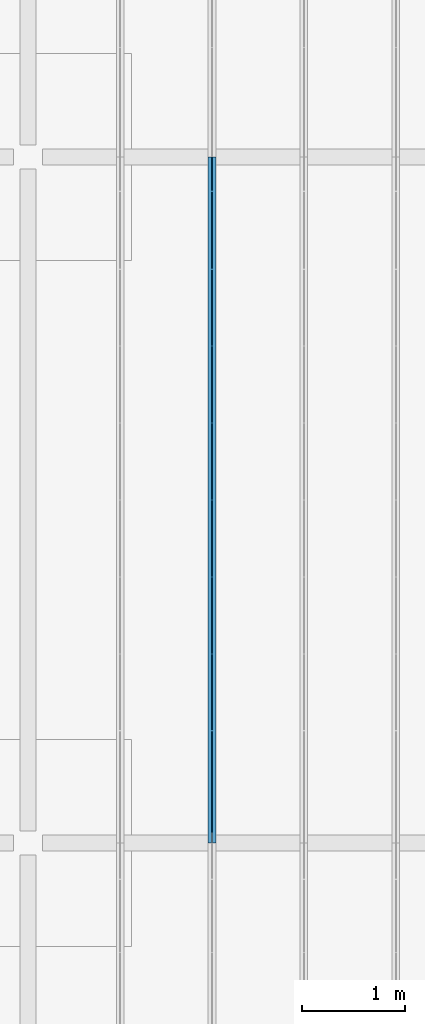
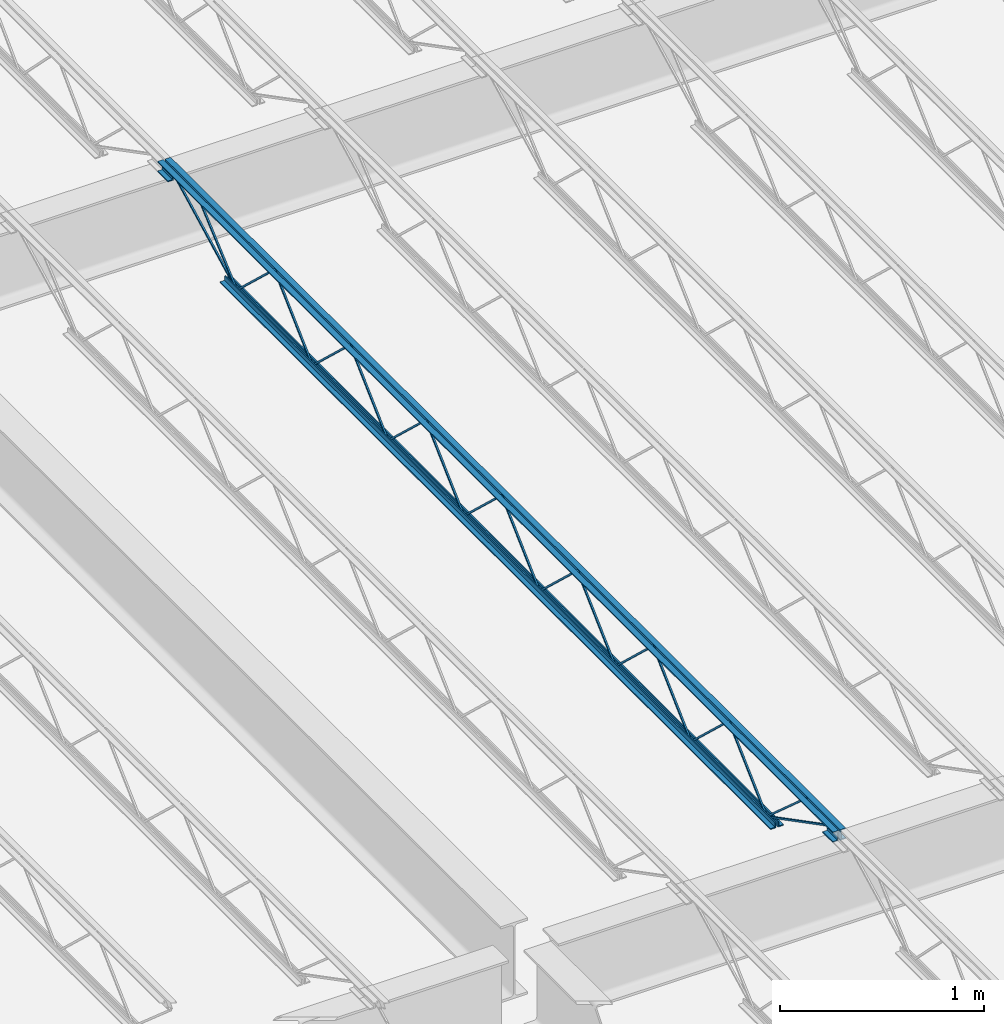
# One storey, part 34 of 75: 1 beam.
"""IFC2X3 building model written with IfcOpenShell, lengths in metres."""

from ifc_helpers import new_model, entity, si_unit, converted_unit, frame, origin, place, context, project, spatial, face_set, surface_model, element, save


model = new_model("IFC2X3")

# Units and contexts
model_context = context("Model", 3, precision=1e-09, world=origin())
plan_context = context("Plan", 3, precision=1e-09, world=origin())
ifc_project = project(units=[si_unit("LENGTHUNIT", "METRE"), si_unit("AREAUNIT", "SQUARE_METRE"), si_unit("VOLUMEUNIT", "CUBIC_METRE"), converted_unit("PLANEANGLEUNIT", "DEGREE", entity("IfcRatioMeasure", 0.01745329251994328), si_unit("PLANEANGLEUNIT", "RADIAN"), dimensions=[0, 0, 0, 0, 0, 0, 0]), si_unit("TIMEUNIT", "SECOND")], contexts=[model_context, plan_context])

# Site, building, storey
site_placement = place(None, origin())
site = spatial("IfcSite", under=ifc_project, at=site_placement, Name="Default", CompositionType="ELEMENT")
building_placement = place(site_placement, origin())
building = spatial("IfcBuilding", under=site, at=building_placement, CompositionType="ELEMENT")
storey_placement = place(building_placement, origin())
storey = spatial("IfcBuildingStorey", under=building, at=storey_placement, Name="First Floor", CompositionType="ELEMENT", Elevation=-3.531500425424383e-13)

# Beam
beam_placement = place(storey_placement, frame((-38.91925000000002, 28.38050000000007, 4.112000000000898), z_axis=(0.0, 0.0, 1.0), x_axis=(-1.0, 0.0, 0.0)))
element("IfcBeam", 1, at=beam_placement, inside=storey, Name="M_K-Series Bar Joist-Rod Web:14K1:14K1", ObjectType="M_K-Series Bar Joist-Rod Web:14K1", context=model_context, shape_type="SurfaceModel", body=[
    surface_model("IfcFaceBasedSurfaceModel", [(-0.03200000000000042, -2.199142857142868, 0.01110000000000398), (-0.04149999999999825, -2.199142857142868, 0.01110000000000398), (-0.04149999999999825, -2.199142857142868, 0.001600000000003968), (-0.03200000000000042, -2.199142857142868, 0.001600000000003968), (-0.04149999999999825, -2.197849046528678, 0.01110000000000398), (-0.03200000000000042, -2.197849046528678, 0.01110000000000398), (-0.04149999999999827, -2.19408666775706, 0.001600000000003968), (-0.04149999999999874, -1.828650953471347, 0.3449000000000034), (-0.04149999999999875, -1.826063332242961, 0.3449000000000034), (-0.04149999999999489, -1.460627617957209, 0.001600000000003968), (-0.0414999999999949, -1.45557142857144, 0.001600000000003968), (-0.04149999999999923, -1.45557142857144, 0.01110000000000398), (-0.04149999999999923, -1.456865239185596, 0.01110000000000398), (-0.04149999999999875, -1.822300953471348, 0.3544000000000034), (-0.04149999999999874, -1.83241333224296, 0.3544000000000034), (-0.03200000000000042, -2.19408666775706, 0.001600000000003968), (-0.0320000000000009, -1.828650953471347, 0.3449000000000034), (-0.0320000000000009, -1.826063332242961, 0.3449000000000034), (-0.03200000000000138, -1.460627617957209, 0.001600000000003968), (-0.03200000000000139, -1.45557142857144, 0.001600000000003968), (-0.03199999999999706, -1.45557142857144, 0.01110000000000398), (-0.03199999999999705, -1.456865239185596, 0.01110000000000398), (-0.03200000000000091, -1.822300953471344, 0.3544000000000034), (-0.0320000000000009, -1.83241333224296, 0.3544000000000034), (-0.03199999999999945, -2.942714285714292, 0.01110000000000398), (-0.04149999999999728, -2.942714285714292, 0.01110000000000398), (-0.04149999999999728, -2.942714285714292, 0.001600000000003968), (-0.03199999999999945, -2.942714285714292, 0.001600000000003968), (-0.04149999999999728, -2.941420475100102, 0.01110000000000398), (-0.03199999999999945, -2.941420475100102, 0.01110000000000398), (-0.04149999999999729, -2.937658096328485, 0.001600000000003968), (-0.04149999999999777, -2.572222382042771, 0.3449000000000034), (-0.04149999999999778, -2.569634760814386, 0.3449000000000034), (-0.04149999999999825, -2.204199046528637, 0.001600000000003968), (-0.04149999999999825, -2.199142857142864, 0.001600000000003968), (-0.04149999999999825, -2.199142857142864, 0.01110000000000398), (-0.04149999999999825, -2.20043666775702, 0.01110000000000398), (-0.04149999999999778, -2.565872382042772, 0.3544000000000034), (-0.04149999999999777, -2.575984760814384, 0.3544000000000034), (-0.03199999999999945, -2.937658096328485, 0.001600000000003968), (-0.03199999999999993, -2.572222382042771, 0.3449000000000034), (-0.03199999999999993, -2.569634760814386, 0.3449000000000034), (-0.03200000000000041, -2.204199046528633, 0.001600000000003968), (-0.03200000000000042, -2.199142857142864, 0.001600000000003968), (-0.03200000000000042, -2.199142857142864, 0.01110000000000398), (-0.03200000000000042, -2.20043666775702, 0.01110000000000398), (-0.03199999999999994, -2.565872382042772, 0.3544000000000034), (-0.03199999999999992, -2.575984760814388, 0.3544000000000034), (-0.03199999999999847, -3.686285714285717, 0.01110000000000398), (-0.04149999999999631, -3.686285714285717, 0.01110000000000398), (-0.04149999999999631, -3.686285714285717, 0.001600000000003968), (-0.03199999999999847, -3.686285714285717, 0.001600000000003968), (-0.04149999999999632, -3.684991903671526, 0.01110000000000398), (-0.03199999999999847, -3.684991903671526, 0.01110000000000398), (-0.04149999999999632, -3.681229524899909, 0.001600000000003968), (-0.0414999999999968, -3.315793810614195, 0.3449000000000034), (-0.0414999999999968, -3.31320618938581, 0.3449000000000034), (-0.04149999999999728, -2.947770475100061, 0.001600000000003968), (-0.04149999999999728, -2.942714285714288, 0.001600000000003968), (-0.04149999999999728, -2.942714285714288, 0.01110000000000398), (-0.04149999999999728, -2.944008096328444, 0.01110000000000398), (-0.04149999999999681, -3.309443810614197, 0.3544000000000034), (-0.04149999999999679, -3.319556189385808, 0.3544000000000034), (-0.03199999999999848, -3.681229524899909, 0.001600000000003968), (-0.03199999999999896, -3.315793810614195, 0.3449000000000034), (-0.03199999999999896, -3.31320618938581, 0.3449000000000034), (-0.03199999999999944, -2.947770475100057, 0.001600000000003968), (-0.03199999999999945, -2.942714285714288, 0.001600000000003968), (-0.03199999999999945, -2.942714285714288, 0.01110000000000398), (-0.03199999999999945, -2.944008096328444, 0.01110000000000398), (-0.03199999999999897, -3.309443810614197, 0.3544000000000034), (-0.03199999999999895, -3.319556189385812, 0.3544000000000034), (-0.0319999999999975, -4.429857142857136, 0.01110000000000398), (-0.04149999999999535, -4.429857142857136, 0.01110000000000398), (-0.04149999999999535, -4.429857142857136, 0.001600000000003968), (-0.0319999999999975, -4.429857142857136, 0.001600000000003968), (-0.04149999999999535, -4.42856333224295, 0.01110000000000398), (-0.0319999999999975, -4.42856333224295, 0.01110000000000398), (-0.04149999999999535, -4.424800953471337, 0.001600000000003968), (-0.04149999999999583, -4.059365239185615, 0.3449000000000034), (-0.04149999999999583, -4.056777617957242, 0.3449000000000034), (-0.04149999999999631, -3.691341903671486, 0.001600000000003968), (-0.04149999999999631, -3.686285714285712, 0.01110000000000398), (-0.04149999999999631, -3.687579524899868, 0.01110000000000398), (-0.04149999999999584, -4.053015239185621, 0.3544000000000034), (-0.04149999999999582, -4.063127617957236, 0.3544000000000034), (-0.03199999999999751, -4.424800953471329, 0.001600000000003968), (-0.03199999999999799, -4.059365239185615, 0.3449000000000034), (-0.03199999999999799, -4.056777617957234, 0.3449000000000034), (-0.03199999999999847, -3.691341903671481, 0.001600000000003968), (-0.03199999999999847, -3.686285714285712, 0.001600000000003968), (-0.03199999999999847, -3.687579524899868, 0.01110000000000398), (-0.031999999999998, -4.053015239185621, 0.3544000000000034), (-0.03199999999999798, -4.063127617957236, 0.3544000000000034), (-0.03200000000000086, -5.173428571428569, 0.01110000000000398), (-0.04149999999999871, -5.173428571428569, 0.01110000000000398), (-0.04149999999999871, -5.173428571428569, 0.001600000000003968), (-0.03200000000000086, -5.173428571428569, 0.001600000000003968), (-0.04149999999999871, -5.172134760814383, 0.01110000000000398), (-0.03200000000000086, -5.172134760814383, 0.01110000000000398), (-0.04149999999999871, -5.168372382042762, 0.001600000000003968), (-0.04149999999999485, -4.802936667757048, 0.3449000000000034), (-0.04149999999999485, -4.800349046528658, 0.3449000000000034), (-0.04149999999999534, -4.43491333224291, 0.001600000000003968), (-0.04149999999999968, -4.429857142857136, 0.01110000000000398), (-0.04149999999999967, -4.431150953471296, 0.01110000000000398), (-0.0414999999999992, -4.796586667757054, 0.3544000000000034), (-0.04149999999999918, -4.806699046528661, 0.3544000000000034), (-0.03200000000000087, -5.168372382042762, 0.001600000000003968), (-0.03200000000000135, -4.802936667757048, 0.3449000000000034), (-0.03200000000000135, -4.800349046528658, 0.3449000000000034), (-0.03200000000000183, -4.43491333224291, 0.001600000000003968), (-0.03200000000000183, -4.429857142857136, 0.001600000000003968), (-0.0319999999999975, -4.431150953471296, 0.01110000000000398), (-0.03199999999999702, -4.796586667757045, 0.3544000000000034), (-0.03199999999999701, -4.806699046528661, 0.3544000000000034), (-0.03199999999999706, -1.455571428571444, 0.01109999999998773), (-0.0414999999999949, -1.455571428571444, 0.01109999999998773), (-0.0414999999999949, -1.455571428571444, 0.001599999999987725), (-0.03199999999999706, -1.455571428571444, 0.001599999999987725), (-0.0414999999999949, -1.454277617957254, 0.01109999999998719), (-0.03199999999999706, -1.454277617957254, 0.01109999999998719), (-0.04149999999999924, -1.450515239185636, 0.001599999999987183), (-0.04149999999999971, -1.085079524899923, 0.3448999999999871), (-0.04149999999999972, -1.082491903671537, 0.3448999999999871), (-0.0415000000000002, -0.7170561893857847, 0.001599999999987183), (-0.04149999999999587, -0.7120000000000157, 0.001599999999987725), (-0.0415000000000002, -0.7120000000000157, 0.01109999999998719), (-0.0415000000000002, -0.7132938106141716, 0.01109999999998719), (-0.04149999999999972, -1.078729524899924, 0.3543999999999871), (-0.04149999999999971, -1.088841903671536, 0.3543999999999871), (-0.0320000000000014, -1.450515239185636, 0.001599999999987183), (-0.03199999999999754, -1.085079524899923, 0.3448999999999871), (-0.03199999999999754, -1.082491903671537, 0.3448999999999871), (-0.03199999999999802, -0.7170561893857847, 0.001599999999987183), (-0.03199999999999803, -0.7120000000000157, 0.001599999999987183), (-0.03199999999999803, -0.7120000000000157, 0.01109999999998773), (-0.03199999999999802, -0.7132938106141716, 0.01109999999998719), (-0.03199999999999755, -1.07872952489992, 0.3543999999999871), (-0.03199999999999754, -1.088841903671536, 0.3543999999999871), (-0.03199999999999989, -5.916999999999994, 0.01110000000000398), (-0.04149999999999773, -5.916999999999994, 0.01110000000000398), (-0.04149999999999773, -5.916999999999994, 0.001600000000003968), (-0.03199999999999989, -5.916999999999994, 0.001600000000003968), (-0.04149999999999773, -5.915706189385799, 0.01110000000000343), (-0.03199999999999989, -5.915706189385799, 0.01110000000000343), (-0.04149999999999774, -5.911943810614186, 0.001600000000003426), (-0.04149999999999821, -5.546508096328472, 0.3449000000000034), (-0.04149999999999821, -5.543920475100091, 0.3449000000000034), (-0.0414999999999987, -5.178484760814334, 0.001600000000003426), (-0.04149999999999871, -5.173428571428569, 0.01110000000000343), (-0.0414999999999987, -5.174722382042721, 0.01110000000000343), (-0.04149999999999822, -5.540158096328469, 0.3544000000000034), (-0.04149999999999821, -5.550270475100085, 0.3544000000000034), (-0.0319999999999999, -5.911943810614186, 0.001600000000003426), (-0.03200000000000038, -5.546508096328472, 0.3449000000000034), (-0.03200000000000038, -5.543920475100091, 0.3449000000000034), (-0.03200000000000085, -5.178484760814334, 0.001600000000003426), (-0.03200000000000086, -5.173428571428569, 0.001600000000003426), (-0.03200000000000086, -5.174722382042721, 0.01110000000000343), (-0.03200000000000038, -5.540158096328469, 0.3544000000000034), (-0.03200000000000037, -5.550270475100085, 0.3544000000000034), (-0.0414999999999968, 0.0, 0.3559999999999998), (-0.07349999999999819, 0.0, 0.3559999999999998), (-0.07349999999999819, 0.0, 0.349499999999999), (-0.04799999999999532, 0.0, 0.349499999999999), (-0.04799999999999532, 0.0, 0.3239999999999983), (-0.0414999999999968, 0.0, 0.3239999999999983), (-0.03199999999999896, 0.0, 0.3559999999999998), (-0.03199999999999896, 0.0, 0.3239999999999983), (-0.0254999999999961, 0.0, 0.3239999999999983), (-0.0254999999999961, 0.0, 0.349499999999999), (0.0, 0.0, 0.349499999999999), (0.0, 0.0, 0.3559999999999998), (-0.0414999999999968, -6.628999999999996, 0.3559999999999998), (-0.07349999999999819, -6.628999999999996, 0.3559999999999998), (-0.07349999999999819, -6.628999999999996, 0.349499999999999), (-0.04799999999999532, -6.628999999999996, 0.349499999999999), (-0.04799999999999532, -6.628999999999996, 0.3239999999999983), (-0.0414999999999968, -6.628999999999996, 0.3239999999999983), (-0.03199999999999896, -6.628999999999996, 0.3559999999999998), (-0.03199999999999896, -6.628999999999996, 0.3239999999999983), (-0.02549999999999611, -6.628999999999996, 0.3239999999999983), (-0.02549999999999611, -6.628999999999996, 0.349499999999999), (0.0, -6.628999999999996, 0.349499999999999), (0.0, -6.628999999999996, 0.3559999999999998), (-0.03199999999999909, -6.529000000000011, 0.2924999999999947), (0.0, -6.529000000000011, 0.2924999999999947), (0.0, -6.529000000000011, 0.2989999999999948), (-0.02550000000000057, -6.529000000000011, 0.2989999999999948), (-0.02550000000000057, -6.529000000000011, 0.3239999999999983), (-0.03199999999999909, -6.529000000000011, 0.3239999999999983), (-0.07349999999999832, -6.529000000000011, 0.2924999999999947), (-0.04149999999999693, -6.529000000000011, 0.2924999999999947), (-0.04149999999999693, -6.529000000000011, 0.3239999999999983), (-0.04799999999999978, -6.529000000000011, 0.3239999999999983), (-0.04799999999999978, -6.529000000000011, 0.2989999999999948), (-0.07349999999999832, -6.529000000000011, 0.2989999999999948), (-0.03199999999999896, -6.628999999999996, 0.2924999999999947), (0.0, -6.628999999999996, 0.2924999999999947), (0.0, -6.628999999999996, 0.2989999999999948), (-0.02550000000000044, -6.628999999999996, 0.2989999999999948), (-0.02550000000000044, -6.628999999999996, 0.3239999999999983), (-0.07349999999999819, -6.628999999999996, 0.2924999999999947), (-0.0414999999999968, -6.628999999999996, 0.2924999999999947), (-0.04799999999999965, -6.628999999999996, 0.3239999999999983), (-0.04799999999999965, -6.628999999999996, 0.2989999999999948), (-0.07349999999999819, -6.628999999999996, 0.2989999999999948), (-0.0414999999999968, 0.0, 0.2924999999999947), (-0.04799999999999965, 0.0, 0.3239999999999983), (-0.04799999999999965, 0.0, 0.2989999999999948), (-0.07349999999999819, 0.0, 0.2989999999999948), (-0.07349999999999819, 0.0, 0.2924999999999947), (-0.03199999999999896, 0.0, 0.2924999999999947), (0.0, 0.0, 0.2924999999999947), (0.0, 0.0, 0.2989999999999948), (-0.02550000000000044, 0.0, 0.2989999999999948), (-0.02550000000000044, 0.0, 0.3239999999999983), (-0.04149999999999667, -0.0999999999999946, 0.2924999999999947), (-0.04149999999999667, -0.0999999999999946, 0.3239999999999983), (-0.04799999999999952, -0.0999999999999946, 0.3239999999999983), (-0.04799999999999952, -0.0999999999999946, 0.2989999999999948), (-0.07349999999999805, -0.0999999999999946, 0.2989999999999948), (-0.07349999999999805, -0.0999999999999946, 0.2924999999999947), (-0.03199999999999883, -0.0999999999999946, 0.2924999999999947), (0.0, -0.0999999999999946, 0.2924999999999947), (0.0, -0.0999999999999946, 0.2989999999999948), (-0.02550000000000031, -0.0999999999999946, 0.2989999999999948), (-0.02550000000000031, -0.0999999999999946, 0.3239999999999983), (-0.03199999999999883, -0.0999999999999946, 0.3239999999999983), (-0.041499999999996, -0.6119999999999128, 0.0), (-0.041499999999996, -0.6119999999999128, 0.03199999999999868), (-0.04799999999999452, -0.6119999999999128, 0.03199999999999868), (-0.04799999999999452, -0.6119999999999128, 0.006499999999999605), (-0.07349999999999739, -0.6119999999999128, 0.006499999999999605), (-0.07349999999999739, -0.6119999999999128, 0.0), (-0.03199999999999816, -0.6119999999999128, 0.0), (0.0, -0.6119999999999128, 0.0), (0.0, -0.6119999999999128, 0.006499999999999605), (-0.0254999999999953, -0.6119999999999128, 0.006499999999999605), (-0.0254999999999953, -0.6119999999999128, 0.03199999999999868), (-0.03199999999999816, -0.6119999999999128, 0.03199999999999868), (-0.04149999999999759, -6.016999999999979, 0.0), (-0.04149999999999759, -6.016999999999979, 0.03199999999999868), (-0.04799999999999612, -6.016999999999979, 0.03199999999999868), (-0.04799999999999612, -6.016999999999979, 0.006499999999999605), (-0.07349999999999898, -6.016999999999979, 0.006499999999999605), (-0.07349999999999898, -6.016999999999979, 0.0), (-0.03199999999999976, -6.016999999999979, 0.0), (0.0, -6.016999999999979, 0.0), (0.0, -6.016999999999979, 0.006499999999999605), (-0.02549999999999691, -6.016999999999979, 0.006499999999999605), (-0.02549999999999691, -6.016999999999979, 0.03199999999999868), (-0.03199999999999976, -6.016999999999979, 0.03199999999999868), (-0.03199999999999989, -5.914811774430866, 0.01056594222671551), (-0.04149999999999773, -5.914811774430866, 0.01056594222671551), (-0.04149999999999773, -5.919188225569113, 0.002134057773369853), (-0.03199999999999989, -5.919188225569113, 0.002134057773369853), (-0.03199999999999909, -6.527840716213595, 0.3287499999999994), (-0.03199999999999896, -6.628999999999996, 0.3287499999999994), (-0.03199999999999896, -6.628999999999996, 0.3192499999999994), (-0.03199999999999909, -6.530159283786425, 0.3192499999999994), (-0.04150000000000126, -6.530159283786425, 0.3192499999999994), (-0.04149999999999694, -6.527840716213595, 0.3287499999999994), (-0.0414999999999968, -6.628999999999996, 0.3287499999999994), (-0.0414999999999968, -6.628999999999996, 0.3192499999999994), (-0.03199999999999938, -6.308742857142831, 0.341700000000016), (-0.04149999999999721, -6.308742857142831, 0.341700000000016), (-0.04149999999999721, -6.308742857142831, 0.332200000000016), (-0.03199999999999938, -6.308742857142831, 0.332200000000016), (-0.04149999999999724, -6.294262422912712, 0.341700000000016), (-0.0319999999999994, -6.294262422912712, 0.341700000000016), (-0.04149999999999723, -6.297823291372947, 0.3322000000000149), (-0.04149999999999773, -5.920122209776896, 0.002770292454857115), (-0.04149999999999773, -5.913877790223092, 0.009929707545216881), (-0.03199999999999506, -6.297823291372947, 0.332200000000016), (-0.03199999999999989, -5.920122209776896, 0.002770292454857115), (-0.0319999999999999, -5.913877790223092, 0.00992970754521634), (-0.03199999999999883, -0.09781177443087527, 0.3197840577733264), (-0.03199999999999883, -0.1021882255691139, 0.3282159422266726), (-0.04149999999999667, -0.1021882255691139, 0.3282159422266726), (-0.04149999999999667, -0.09781177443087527, 0.3197840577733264), (-0.03199999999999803, -0.7098117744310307, 0.002134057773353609), (-0.03199999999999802, -0.7141882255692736, 0.01056594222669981), (-0.04149999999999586, -0.7141882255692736, 0.01056594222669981), (-0.04149999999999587, -0.7098117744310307, 0.002134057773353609), (-0.03199999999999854, -0.3225446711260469, 0.3460994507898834), (-0.03199999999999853, -0.3288553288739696, 0.3532005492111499), (-0.04149999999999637, -0.3288553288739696, 0.3532005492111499), (-0.04149999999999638, -0.3225446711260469, 0.3460994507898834), (-0.03199999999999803, -0.7088446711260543, 0.002799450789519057), (-0.03199999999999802, -0.7151553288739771, 0.009900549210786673), (-0.04149999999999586, -0.7151553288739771, 0.009900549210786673), (-0.04149999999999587, -0.7088446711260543, 0.002799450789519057)], [face_set([[[0, 1, 2, 3]], [[1, 4, 5, 0]], [[2, 6, 7, 8, 9, 10, 11, 12, 13, 14, 4, 1]], [[3, 2, 6, 15]], [[0, 3, 15, 16, 17, 18, 19, 20, 21, 22, 23, 5]], [[4, 5, 23, 14]], [[15, 16, 7, 6]], [[14, 13, 22, 23]], [[16, 7, 8, 17]], [[13, 12, 21, 22]], [[17, 8, 9, 18]], [[20, 11, 10, 19]], [[12, 11, 20, 21]], [[18, 9, 10, 19]]]), face_set([[[24, 25, 26, 27]], [[25, 28, 29, 24]], [[26, 30, 31, 32, 33, 34, 35, 36, 37, 38, 28, 25]], [[27, 26, 30, 39]], [[24, 27, 39, 40, 41, 42, 43, 44, 45, 46, 47, 29]], [[28, 29, 47, 38]], [[39, 40, 31, 30]], [[38, 37, 46, 47]], [[40, 31, 32, 41]], [[37, 36, 45, 46]], [[41, 32, 33, 42]], [[44, 35, 34, 43]], [[36, 35, 44, 45]], [[42, 33, 34, 43]]]), face_set([[[48, 49, 50, 51]], [[49, 52, 53, 48]], [[50, 54, 55, 56, 57, 58, 59, 60, 61, 62, 52, 49]], [[51, 50, 54, 63]], [[48, 51, 63, 64, 65, 66, 67, 68, 69, 70, 71, 53]], [[52, 53, 71, 62]], [[63, 64, 55, 54]], [[62, 61, 70, 71]], [[64, 55, 56, 65]], [[61, 60, 69, 70]], [[65, 56, 57, 66]], [[68, 59, 58, 67]], [[60, 59, 68, 69]], [[66, 57, 58, 67]]]), face_set([[[72, 73, 74, 75]], [[73, 76, 77, 72]], [[74, 78, 79, 80, 81, 50, 82, 83, 84, 85, 76, 73]], [[75, 74, 78, 86]], [[72, 75, 86, 87, 88, 89, 90, 48, 91, 92, 93, 77]], [[76, 77, 93, 85]], [[86, 87, 79, 78]], [[85, 84, 92, 93]], [[87, 79, 80, 88]], [[84, 83, 91, 92]], [[88, 80, 81, 89]], [[48, 82, 50, 90]], [[83, 82, 48, 91]], [[89, 81, 50, 90]]]), face_set([[[94, 95, 96, 97]], [[95, 98, 99, 94]], [[96, 100, 101, 102, 103, 74, 104, 105, 106, 107, 98, 95]], [[97, 96, 100, 108]], [[94, 97, 108, 109, 110, 111, 112, 72, 113, 114, 115, 99]], [[98, 99, 115, 107]], [[108, 109, 101, 100]], [[107, 106, 114, 115]], [[109, 101, 102, 110]], [[106, 105, 113, 114]], [[110, 102, 103, 111]], [[72, 104, 74, 112]], [[105, 104, 72, 113]], [[111, 103, 74, 112]]]), face_set([[[116, 117, 118, 119]], [[117, 120, 121, 116]], [[118, 122, 123, 124, 125, 126, 127, 128, 129, 130, 120, 117]], [[119, 118, 122, 131]], [[116, 119, 131, 132, 133, 134, 135, 136, 137, 138, 139, 121]], [[120, 121, 139, 130]], [[131, 132, 123, 122]], [[130, 129, 138, 139]], [[132, 123, 124, 133]], [[129, 128, 137, 138]], [[133, 124, 125, 134]], [[136, 127, 126, 135]], [[128, 127, 136, 137]], [[134, 125, 126, 135]]]), face_set([[[140, 141, 142, 143]], [[141, 144, 145, 140]], [[142, 146, 147, 148, 149, 96, 150, 151, 152, 153, 144, 141]], [[143, 142, 146, 154]], [[140, 143, 154, 155, 156, 157, 158, 94, 159, 160, 161, 145]], [[144, 145, 161, 153]], [[154, 155, 147, 146]], [[153, 152, 160, 161]], [[155, 147, 148, 156]], [[152, 151, 159, 160]], [[156, 148, 149, 157]], [[94, 150, 96, 158]], [[151, 150, 94, 159]], [[157, 149, 96, 158]]]), face_set([[[162, 163, 164, 165, 166, 167]], [[168, 169, 170, 171, 172, 173]], [[174, 175, 176, 177, 178, 179]], [[180, 181, 182, 183, 184, 185]], [[167, 162, 174, 179]], [[166, 167, 179, 178]], [[165, 177, 178, 166]], [[164, 165, 177, 176]], [[163, 175, 176, 164]], [[162, 174, 175, 163]], [[173, 185, 180, 168]], [[172, 173, 185, 184]], [[171, 172, 184, 183]], [[170, 171, 183, 182]], [[169, 170, 182, 181]], [[168, 180, 181, 169]]]), face_set([[[186, 187, 188, 189, 190, 191]], [[192, 193, 194, 195, 196, 197]], [[198, 199, 200, 201, 202, 181]], [[203, 204, 179, 205, 206, 207]], [[191, 181, 198, 186]], [[190, 202, 181, 191]], [[189, 190, 202, 201]], [[188, 200, 201, 189]], [[187, 188, 200, 199]], [[186, 187, 199, 198]], [[197, 207, 203, 192]], [[196, 206, 207, 197]], [[195, 205, 206, 196]], [[194, 179, 205, 195]], [[193, 194, 179, 204]], [[192, 193, 204, 203]]]), face_set([[[208, 167, 209, 210, 211, 212]], [[213, 214, 215, 216, 217, 169]], [[218, 219, 220, 221, 222, 223]], [[224, 225, 226, 227, 228, 229]], [[212, 208, 218, 223]], [[211, 222, 223, 212]], [[210, 221, 222, 211]], [[209, 220, 221, 210]], [[167, 219, 220, 209]], [[208, 167, 219, 218]], [[169, 229, 224, 213]], [[217, 228, 229, 169]], [[216, 217, 228, 227]], [[215, 226, 227, 216]], [[214, 215, 226, 225]], [[213, 214, 225, 224]]]), face_set([[[230, 231, 232, 233, 234, 235]], [[236, 237, 238, 239, 240, 241]], [[242, 243, 244, 245, 246, 247]], [[248, 249, 250, 251, 252, 253]], [[235, 230, 242, 247]], [[234, 246, 247, 235]], [[233, 245, 246, 234]], [[232, 244, 245, 233]], [[231, 243, 244, 232]], [[230, 231, 243, 242]], [[241, 253, 248, 236]], [[240, 252, 253, 241]], [[239, 240, 252, 251]], [[238, 250, 251, 239]], [[237, 238, 250, 249]], [[236, 237, 249, 248]]]), face_set([[[254, 255, 256, 257]], [[257, 254, 258, 259, 260, 261]], [[256, 257, 261, 262]], [[255, 263, 264, 265, 262, 256]], [[254, 258, 263, 255]], [[259, 264, 265, 260]], [[262, 261, 260, 265]], [[258, 259, 264, 263]]]), face_set([[[266, 267, 268, 269]], [[267, 270, 271, 266]], [[268, 272, 273, 274, 270, 267]], [[269, 268, 272, 275]], [[266, 269, 275, 276, 277, 271]], [[277, 274, 273, 276]], [[270, 274, 277, 271]], [[275, 272, 273, 276]]]), face_set([[[278, 279, 280, 281]], [[282, 283, 284, 285]], [[281, 285, 282, 278]], [[280, 284, 285, 281]], [[279, 280, 284, 283]], [[278, 279, 283, 282]]]), face_set([[[286, 287, 288, 289]], [[290, 291, 292, 293]], [[289, 293, 290, 286]], [[288, 292, 293, 289]], [[287, 288, 292, 291]], [[286, 287, 291, 290]]])]),
])

save(model, "model.ifc")
